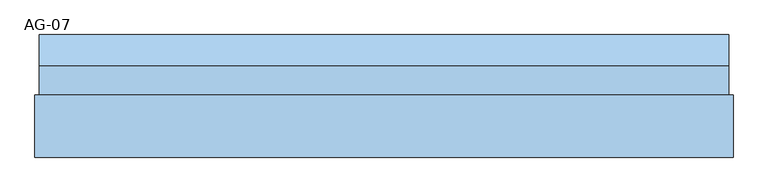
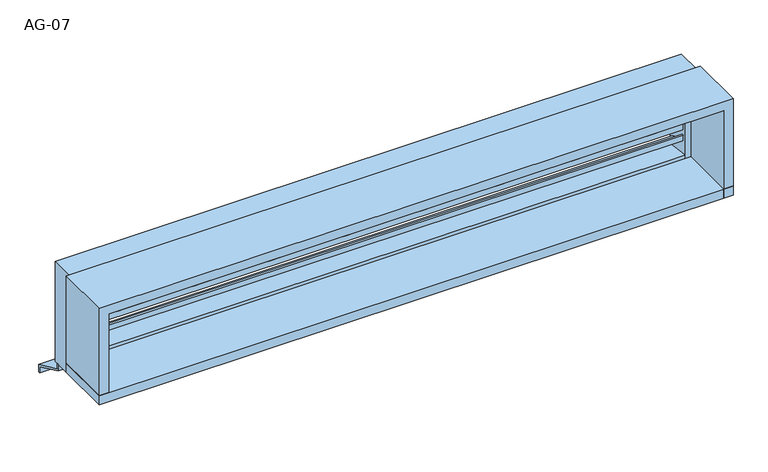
"""IFC4 building model written with IfcOpenShell, lengths in millimetres: window geometry, 営_単窓_ガラリ : AG-07."""

import ifcopenshell
import ifcopenshell.guid

model = None  # the IFC model being written
_history = None  # IfcOwnerHistory: only IFC2X3 demands one
_inside = {}  # id of a spatial element -> (the spatial element, [elements in it])
_under = {}  # id of a project, library or spatial element -> (it, [spatial elements below it])
_declared = {}  # id of a project -> (the project, [libraries it declares])
_typed = {}  # id of a type object -> (the type object, [elements of that type])
_made_of = {}  # id of a material, layer set ... -> (it, [elements and type objects made of it])


def new_model(schema):
    """Start an empty IFC model of exactly this schema.

    Asked for "IFC4X3", IfcOpenShell would pick the latest addendum, in which some entities
    have other attributes; the version numbers below select the first issue.
    IFC2X3 requires an IfcOwnerHistory on every rooted entity: one is made here for all.
    """
    global model, _history
    if schema == "IFC4X3":
        model = ifcopenshell.file(schema_version=(4, 3, 0, 0))
    else:
        model = ifcopenshell.file(schema=schema)
    _inside.clear()
    _under.clear()
    _declared.clear()
    _typed.clear()
    _made_of.clear()
    _history = None
    if model.schema == "IFC2X3":
        org = make("IfcOrganization", Name="unknown")
        user = make(
            "IfcPersonAndOrganization",
            ThePerson=make("IfcPerson", FamilyName="unknown"),
            TheOrganization=org,
        )
        app = make(
            "IfcApplication",
            ApplicationDeveloper=org,
            Version="unknown",
            ApplicationFullName="unknown",
            ApplicationIdentifier="unknown",
        )
        _history = make(
            "IfcOwnerHistory",
            OwningUser=user,
            OwningApplication=app,
            ChangeAction="ADDED",
            CreationDate=0,
        )
    return model


def make(cls, **values):
    """One entity of the class cls with the attributes given. An attribute that is None is left unset."""
    return model.create_entity(
        cls, **{name: value for name, value in values.items() if value is not None}
    )


def rooted(cls, **values):
    """An entity with a GlobalId (a new one), such as an element, a storey or a relation."""
    return make(cls, GlobalId=ifcopenshell.guid.new(), OwnerHistory=_history, **values)


def si_unit(unit_type, name, prefix=None):
    """IfcSIUnit, for example si_unit("LENGTHUNIT", "METRE", prefix="MILLI")."""
    return make("IfcSIUnit", UnitType=unit_type, Prefix=prefix, Name=name)


def assignment(units):
    """IfcUnitAssignment: the units of a project."""
    return None if units is None else make("IfcUnitAssignment", Units=units)


def point(xyz):
    """IfcCartesianPoint."""
    return None if xyz is None else make("IfcCartesianPoint", Coordinates=xyz)


def direction(xyz):
    """IfcDirection."""
    return None if xyz is None else make("IfcDirection", DirectionRatios=xyz)


def frame(location, z_axis=None, x_axis=None):
    """IfcAxis2Placement3D, a coordinate frame: its origin and axes. An axis left out is left unset."""
    return make(
        "IfcAxis2Placement3D",
        Location=point(location),
        Axis=direction(z_axis),
        RefDirection=direction(x_axis),
    )


def origin():
    """The frame at (0, 0, 0) with its axes left unset."""
    return frame((0.0, 0.0, 0.0))


def place(relative_to, where):
    """IfcLocalPlacement: puts the frame where relative to a parent placement (None: the world)."""
    return make(
        "IfcLocalPlacement", PlacementRelTo=relative_to, RelativePlacement=where
    )


def context(
    kind, dimensions, precision=None, world=None, true_north=None, identifier=None
):
    """IfcGeometricRepresentationContext, for example the 3D "Model" context."""
    return make(
        "IfcGeometricRepresentationContext",
        ContextIdentifier=identifier,
        ContextType=kind,
        CoordinateSpaceDimension=dimensions,
        Precision=precision,
        WorldCoordinateSystem=world,
        TrueNorth=true_north,
    )


def project(units=None, contexts=None):
    """IfcProject with its units and contexts."""
    return rooted(
        "IfcProject",
        Name="project",
        RepresentationContexts=contexts,
        UnitsInContext=assignment(units),
    )


def spatial(cls, under=None, at=None, **own):
    """A site, building, storey or space (cls), placed at a placement, below another one or the project."""
    s = rooted(cls, ObjectPlacement=at, **own)
    if under is not None:
        _under.setdefault(under.id(), (under, []))[1].append(s)
    return s


def polyline(points):
    """IfcPolyline through the points."""
    return make("IfcPolyline", Points=[point(p) for p in points])


def outline(outer, holes=None, kind="AREA"):
    """IfcArbitraryClosedProfileDef: a profile drawn as a closed curve; with holes, ...WithVoids."""
    if holes is None:
        return make("IfcArbitraryClosedProfileDef", ProfileType=kind, OuterCurve=outer)
    return make(
        "IfcArbitraryProfileDefWithVoids",
        ProfileType=kind,
        OuterCurve=outer,
        InnerCurves=holes,
    )


def extrude(swept, where, along, depth):
    """IfcExtrudedAreaSolid: the profile swept, set in the frame where, extruded along a direction by depth."""
    return make(
        "IfcExtrudedAreaSolid",
        SweptArea=swept,
        Position=where,
        ExtrudedDirection=direction(along),
        Depth=depth,
    )


def shape(context_of_items, identifier, shape_type, items):
    """IfcShapeRepresentation: the items that make up one representation, for example the "Body"."""
    return make(
        "IfcShapeRepresentation",
        ContextOfItems=context_of_items,
        RepresentationIdentifier=identifier,
        RepresentationType=shape_type,
        Items=items,
    )


def source(mapping_origin, context_of_items, identifier, shape_type, items):
    """IfcRepresentationMap: a shape defined once, which mapped items show again and again."""
    return make(
        "IfcRepresentationMap",
        MappingOrigin=mapping_origin,
        MappedRepresentation=shape(context_of_items, identifier, shape_type, items),
    )


def transform(
    local_origin,
    x_axis=None,
    y_axis=None,
    z_axis=None,
    scale=None,
    scale2=None,
    scale3=None,
    uniform=True,
):
    """IfcCartesianTransformationOperator3D, or its non-uniform kind. x_axis, y_axis, z_axis: its Axis1, 2, 3."""
    if uniform:
        return make(
            "IfcCartesianTransformationOperator3D",
            Axis1=direction(x_axis),
            Axis2=direction(y_axis),
            LocalOrigin=point(local_origin),
            Scale=scale,
            Axis3=direction(z_axis),
        )
    return make(
        "IfcCartesianTransformationOperator3DnonUniform",
        Axis1=direction(x_axis),
        Axis2=direction(y_axis),
        LocalOrigin=point(local_origin),
        Scale=scale,
        Axis3=direction(z_axis),
        Scale2=scale2,
        Scale3=scale3,
    )


def mapped(mapping_source, mapping_target):
    """IfcMappedItem: shows the shape of a source again, moved by a transform."""
    return make(
        "IfcMappedItem", MappingSource=mapping_source, MappingTarget=mapping_target
    )


def made_of(thing, what):
    """Note that an element or type object is made of a material, layer set ...; save() writes the relation."""
    if what is not None:
        _made_of.setdefault(what.id(), (what, []))[1].append(thing)
    return thing


def element(
    cls,
    number,
    at=None,
    inside=None,
    cuts=None,
    type_object=None,
    material=None,
    context=None,
    identifier="Body",
    shape_type=None,
    held_by="IfcProductDefinitionShape",
    body=None,
    shapes=None,
    **own,
):
    """One element of the class cls, such as IfcWall. Its Tag is "e" and its number.

    at: its placement. inside: the storey or other place that contains it. cuts: it is an
    opening in that element (IfcRelVoidsElement). A single representation is given by context,
    identifier, shape_type and body (its items); several are given by shapes. held_by: the class
    of the entity that holds the representations. save() writes the other relations.
    """
    e = rooted(cls, Tag="e%d" % number, ObjectPlacement=at, **own)
    if body is not None:
        shapes = [shape(context, identifier, shape_type, body)]
    if shapes is not None:
        e.Representation = make(held_by, Representations=shapes)
    if inside is not None:
        _inside.setdefault(inside.id(), (inside, []))[1].append(e)
    if cuts is not None:
        rooted(
            "IfcRelVoidsElement", RelatingBuildingElement=cuts, RelatedOpeningElement=e
        )
    if type_object is not None:
        _typed.setdefault(type_object.id(), (type_object, []))[1].append(e)
    return made_of(e, material)


def aggregate(whole, parts):
    """IfcRelAggregates: a whole, such as a stair, and the parts it consists of."""
    return rooted("IfcRelAggregates", RelatingObject=whole, RelatedObjects=parts)


def save(model, path):
    """Write the relations noted so far, then the file.

    IfcRelAggregates (storeys below a building ...), IfcRelContainedInSpatialStructure (elements
    in a storey), IfcRelDefinesByType, IfcRelAssociatesMaterial and IfcRelDeclares: one each for
    every whole, place, type object, material and project.
    """
    for whole, parts in _under.values():
        aggregate(whole, parts)
    for where, things in _inside.values():
        rooted(
            "IfcRelContainedInSpatialStructure",
            RelatedElements=things,
            RelatingStructure=where,
        )
    for kind, things in _typed.values():
        rooted("IfcRelDefinesByType", RelatedObjects=things, RelatingType=kind)
    for what, things in _made_of.values():
        rooted("IfcRelAssociatesMaterial", RelatedObjects=things, RelatingMaterial=what)
    for by, libraries in _declared.values():
        rooted("IfcRelDeclares", RelatingContext=by, RelatedDefinitions=libraries)
    model.write(path)


def ag_07_7ad97628(model_context):
    return source(origin(), model_context, "Body", "SweptSolid", [
        extrude(outline(polyline([(15.0, 1338.2493654), (15.0, 1320.0), (10.0, 1320.0), (10.0, 1335.0), (-35.0, 1355.0), (-35.0, 1370.0), (-30.0, 1370.0), (-30.0, 1358.2493654), (15.0, 1338.2493654)])), frame((-800.0, 0.0, 0.0), z_axis=(1.0, 0.0, 0.0), x_axis=(0.0, 1.0, 0.0)), (0.0, 0.0, 1.0), 1600.0),
        extrude(outline(polyline([(15.0, 1308.2493654), (15.0, 1290.0), (10.0, 1290.0), (10.0, 1305.0), (-35.0, 1325.0), (-35.0, 1340.0), (-30.0, 1340.0), (-30.0, 1328.2493654), (15.0, 1308.2493654)])), frame((-800.0, 0.0, 0.0), z_axis=(1.0, 0.0, 0.0), x_axis=(0.0, 1.0, 0.0)), (0.0, 0.0, 1.0), 1600.0),
        extrude(outline(polyline([(15.0, 1278.2493654), (15.0, 1260.0), (10.0, 1260.0), (10.0, 1275.0), (-35.0, 1295.0), (-35.0, 1310.0), (-30.0, 1310.0), (-30.0, 1298.2493654), (15.0, 1278.2493654)])), frame((-800.0, 0.0, 0.0), z_axis=(1.0, 0.0, 0.0), x_axis=(0.0, 1.0, 0.0)), (0.0, 0.0, 1.0), 1600.0),
        extrude(outline(polyline([(15.0, 1248.2493654), (15.0, 1230.0), (10.0, 1230.0), (10.0, 1245.0), (-35.0, 1265.0), (-35.0, 1280.0), (-30.0, 1280.0), (-30.0, 1268.2493654), (15.0, 1248.2493654)])), frame((-800.0, 0.0, 0.0), z_axis=(1.0, 0.0, 0.0), x_axis=(0.0, 1.0, 0.0)), (0.0, 0.0, 1.0), 1600.0),
        extrude(outline(polyline([(15.0, 1368.2493654), (15.0, 1350.0), (10.0, 1350.0), (10.0, 1365.0), (-35.0, 1385.0), (-35.0, 1400.0), (-30.0, 1400.0), (-30.0, 1388.2493654), (15.0, 1368.2493654)])), frame((-800.0, 0.0, 0.0), z_axis=(1.0, 0.0, 0.0), x_axis=(0.0, 1.0, 0.0)), (0.0, 0.0, 1.0), 1600.0),
        extrude(outline(polyline([(15.0, 1218.2493654), (15.0, 1200.0), (10.0, 1200.0), (10.0, 1215.0), (-35.0, 1235.0), (-35.0, 1250.0), (-30.0, 1250.0), (-30.0, 1238.2493654), (15.0, 1218.2493654)])), frame((-800.0, 0.0, 0.0), z_axis=(1.0, 0.0, 0.0), x_axis=(0.0, 1.0, 0.0)), (0.0, 0.0, 1.0), 1600.0),
        extrude(outline(polyline([(840.0, -195.0), (-840.0, -195.0), (-840.0, -45.0), (840.0, -45.0), (840.0, -195.0)])), frame((0.0, 0.0, 1165.0), z_axis=(0.0, 0.0, 1.0), x_axis=(1.0, 0.0, 0.0)), (0.0, 0.0, 1.0), 25.0),
        extrude(outline(polyline([(15.0, 1135.0), (100.0, 1095.0), (100.0, 1075.0), (95.0014518, 1075.0), (95.0014518, 1091.8262891), (10.0, 1131.8269723), (10.0, 1150.0), (15.0, 1150.0), (15.0, 1135.0)])), frame((-830.0, 0.0, 0.0), z_axis=(1.0, 0.0, 0.0), x_axis=(0.0, 1.0, 0.0)), (0.0, 0.0, 1.0), 1660.0),
        extrude(outline(polyline([(1165.0, -840.0), (1165.0, -815.0), (1410.0, -815.0), (1410.0, 815.0), (1165.0, 815.0), (1165.0, 840.0), (1435.0, 840.0), (1435.0, -840.0), (1165.0, -840.0)])), frame((0.0, -195.0, 0.0), z_axis=(0.0, 1.0, 0.0), x_axis=(0.0, 0.0, 1.0)), (0.0, 0.0, 1.0), 150.0),
        extrude(outline(polyline([(1150.0, -830.0), (1150.0, -800.0), (1400.0, -800.0), (1400.0, 800.0), (1150.0, 800.0), (1150.0, 830.0), (1430.0, 830.0), (1430.0, -830.0), (1150.0, -830.0)])), frame((0.0, -45.0, 0.0), z_axis=(0.0, 1.0, 0.0), x_axis=(0.0, 0.0, 1.0)), (0.0, 0.0, 1.0), 70.0),
        extrude(outline(polyline([(-45.0, 1150.0), (-45.0, 1200.0), (25.0, 1190.6666667), (25.0, 1150.0), (-45.0, 1150.0)])), frame((-800.0, 0.0, 0.0), z_axis=(1.0, 0.0, 0.0), x_axis=(0.0, 1.0, 0.0)), (0.0, 0.0, 1.0), 1600.0),
    ])


if __name__ == "__main__":
    model = new_model("IFC4")
    model_context = context("Model", 3, world=origin())
    ifc_project = project(units=[si_unit("LENGTHUNIT", "METRE", prefix="MILLI")], contexts=[model_context])
    site = spatial("IfcSite", under=ifc_project)
    building = spatial("IfcBuilding", under=site)
    placement = place(None, origin())
    ag_07_shape = ag_07_7ad97628(model_context)
    element("IfcWindow", 1, ObjectType="営_単窓_ガラリ : AG-07", at=placement, inside=building, context=model_context, shape_type="MappedRepresentation", body=[
        mapped(ag_07_shape, transform((0.0, 0.0, 0.0), x_axis=(1.0, 0.0, 0.0), y_axis=(0.0, 1.0, 0.0), z_axis=(0.0, 0.0, 1.0))),
    ])
    save(model, "model.ifc")
